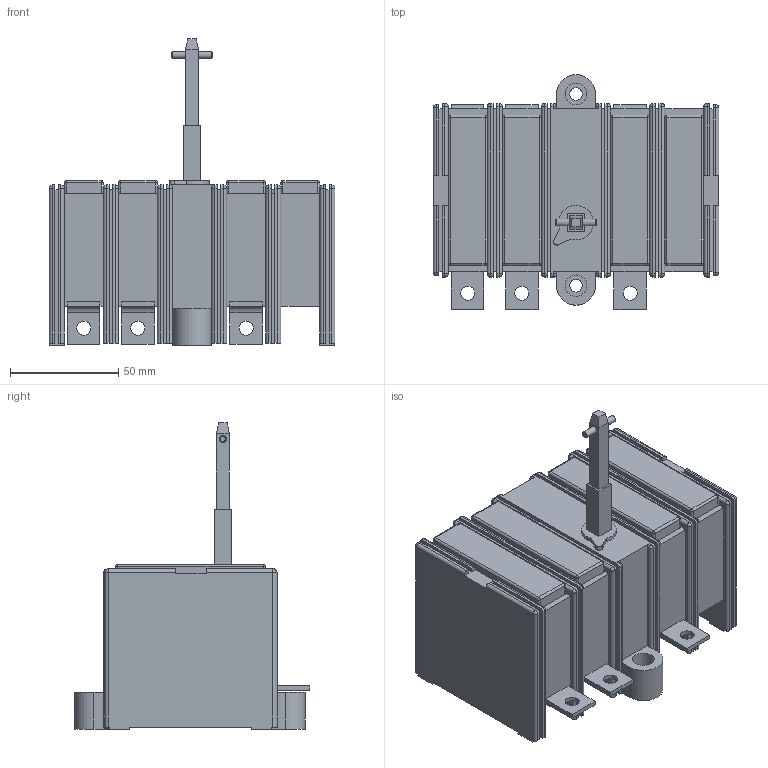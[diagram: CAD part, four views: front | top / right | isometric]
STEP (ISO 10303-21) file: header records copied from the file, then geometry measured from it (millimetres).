
FILE_DESCRIPTION(/* description */ (''),/* implementation_level */ '2;1');
FILE_NAME(/* name */ 'RA100 P3 A.stp',/* time_stamp */ '2021-08-17T12:13:35+02:00',/* author */ (''),/* organization */ (''),/* preprocessor_version */ 'ST-DEVELOPER v18.1',/* originating_system */ 'SIEMENS PLM Software NX 1965',/* authorisation */ '');
FILE_SCHEMA (('AUTOMOTIVE_DESIGN { 1 0 10303 214 3 1 1 1 }'));
Length unit declared in the file: millimetre
Products named in the file (1): RA100 P3 A_stp
Bounding box: 132 x 108.51 x 141.5 mm (x, y, z)
Volume: 660569 mm3; surface area: 77748.7 mm2
Topology: 1 solids, 1 shells, 381 faces, 1014 edges, 602 vertices
Faces by surface type: plane 219, cylinder 120, sphere 39, cone 2, bspline 1
Full cylindrical faces by diameter (mm): 3.1 x2, 5.8 x2, 6.5 x6, 10 x2
Entity records: 11313 total; most frequent: CARTESIAN_POINT 1978, DIRECTION 1955, ORIENTED_EDGE 1912, EDGE_CURVE 956, LINE 713, VECTOR 713, AXIS2_PLACEMENT_3D 621, VERTEX_POINT 598
